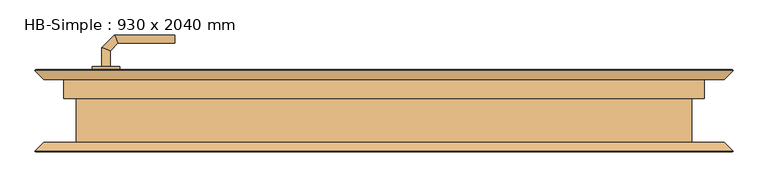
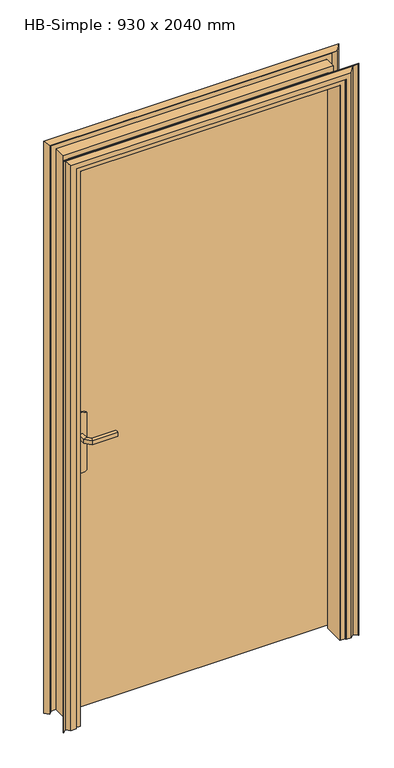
"""IFC4 building model written with IfcOpenShell, lengths in millimetres: door geometry, HB-Simple : 930 x 2040 mm."""

from ifc_helpers import new_model, si_unit, point, frame, frame_2d, origin, place, context, project, spatial, polyline, circle_curve, ellipse_curve, trimmed, segment, composite_curve, outline, extrude, faceted_brep, source, transform, mapped, element, save
from ifc_brep_helpers import plane_surface, cylinder_surface, advanced_brep


def hb_simple_930_x_2040_mm_a3d6ebae(model_context):
    return source(origin(), model_context, "Body", "SolidModel", [
        advanced_brep(
        [(-399.0, 15.0, 993.0), (-411.0, 15.0, 993.0), (-411.0, 15.0, 1007.0), (-399.0, 15.0, 1007.0), (-399.0, -7.4852045, 1007.0), (-399.0, -7.4852045, 993.0), (-411.0, -12.4557673, 1007.0), (-411.0, -12.4557673, 993.0), (-387.5147186, -18.9704859, 1007.0), (-387.5147186, -18.9704859, 993.0), (-392.4852814, -30.9704859, 1007.0), (-392.4852814, -30.9704859, 993.0), (-304.9542163, -18.9704859, 993.0), (-304.9542163, -18.9704859, 1007.0), (-304.9542163, -30.9704859, 1007.0), (-304.9542163, -30.9704859, 993.0)],
        [
            (0, 1, circle_curve(frame((-405.0, 15.0, 1013.0457722), z_axis=(0.0, 1.0, 0.0), x_axis=(-1.0, 0.0, 0.0)), 20.9244589)),
            (1, 2),
            (2, 3, circle_curve(frame((-405.0, 15.0, 986.9542278), z_axis=(0.0, 1.0, 0.0), x_axis=(-1.0, 0.0, 0.0)), 20.9244589)),
            (3, 0),
            (3, 4),
            (4, 5),
            (5, 0),
            (2, 6),
            (6, 4, ellipse_curve(frame((-405.0, -9.9704859, 986.9542278), z_axis=(-0.38268343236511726, 0.9238795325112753, 0.0), x_axis=(0.9238795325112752, 0.38268343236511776, 0.0)), 22.6484711, 20.9244589)),
            (1, 7),
            (7, 6),
            (5, 7, ellipse_curve(frame((-405.0, -9.9704859, 1013.0457722), z_axis=(-0.38268343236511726, 0.9238795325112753, 0.0), x_axis=(0.9238795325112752, 0.38268343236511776, 0.0)), 22.6484711, 20.9244589)),
            (4, 8),
            (8, 9),
            (9, 5),
            (6, 10),
            (10, 8, ellipse_curve(frame((-390.0, -24.9704859, 986.9542278), z_axis=(-0.9238795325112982, 0.38268343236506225, 0.0), x_axis=(0.3826834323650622, 0.9238795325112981, 0.0)), 22.6484711, 20.9244589)),
            (7, 11),
            (11, 10),
            (9, 11, ellipse_curve(frame((-390.0, -24.9704859, 1013.0457722), z_axis=(-0.9238795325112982, 0.38268343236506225, 0.0), x_axis=(0.3826834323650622, 0.9238795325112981, 0.0)), 22.6484711, 20.9244589)),
            (12, 13),
            (13, 14, circle_curve(frame((-304.9542163, -24.9704859, 986.9542278), z_axis=(1.0, 0.0, 0.0), x_axis=(0.0, -1.0, 0.0)), 20.9244589)),
            (14, 15),
            (15, 12, circle_curve(frame((-304.9542163, -24.9704859, 1013.0457722), z_axis=(1.0, 0.0, 0.0), x_axis=(0.0, -1.0, 0.0)), 20.9244589)),
            (8, 13),
            (12, 9),
            (10, 14),
            (11, 15),
        ],
        [
            plane_surface(frame((-414.2195445, 15.0, 1000.0), z_axis=(0.0, 1.0, 0.0), x_axis=(0.0, 0.0, 1.0))),
            plane_surface(frame((-399.0, 15.0, 993.0), z_axis=(1.0, 0.0, 0.0), x_axis=(0.0, -1.0, 0.0))),
            cylinder_surface(frame((-405.0, 15.0, 986.9542278), z_axis=(0.0, 1.0, 0.0), x_axis=(-1.0, 0.0, 0.0)), 20.9244589),
            plane_surface(frame((-411.0, 15.0, 1007.0), z_axis=(-1.0, 0.0, 0.0), x_axis=(0.0, -1.0, 0.0))),
            cylinder_surface(frame((-405.0, 15.0, 1013.0457722), z_axis=(0.0, 1.0, 0.0), x_axis=(-1.0, 0.0, 0.0)), 20.9244589),
            plane_surface(frame((-399.0, -7.4852045, 993.0), z_axis=(0.7071067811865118, 0.7071067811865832, 0.0), x_axis=(0.7071067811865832, -0.7071067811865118, 0.0))),
            cylinder_surface(frame((-405.0, -9.9704859, 986.9542278), z_axis=(-0.7071067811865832, 0.7071067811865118, 0.0), x_axis=(-0.7071067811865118, -0.7071067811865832, 0.0)), 20.9244589),
            plane_surface(frame((-411.0, -12.4557673, 1007.0), z_axis=(-0.7071067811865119, -0.7071067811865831, 0.0), x_axis=(0.7071067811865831, -0.7071067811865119, 0.0))),
            cylinder_surface(frame((-405.0, -9.9704859, 1013.0457722), z_axis=(-0.7071067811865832, 0.7071067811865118, 0.0), x_axis=(-0.7071067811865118, -0.7071067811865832, 0.0)), 20.9244589),
            plane_surface(frame((-304.9542163, -24.9704859, 990.7804555), z_axis=(1.0, 0.0, 0.0), x_axis=(0.0, -1.0, 0.0))),
            plane_surface(frame((-387.5147186, -18.9704859, 993.0), z_axis=(0.0, 1.0, 0.0), x_axis=(1.0, 0.0, 0.0))),
            cylinder_surface(frame((-390.0, -24.9704859, 986.9542278), z_axis=(-1.0, 0.0, 0.0), x_axis=(0.0, -1.0, 0.0)), 20.9244589),
            plane_surface(frame((-392.4852814, -30.9704859, 1007.0), z_axis=(0.0, -1.0, 0.0), x_axis=(1.0, 0.0, 0.0))),
            cylinder_surface(frame((-390.0, -24.9704859, 1013.0457722), z_axis=(-1.0, 0.0, 0.0), x_axis=(0.0, -1.0, 0.0)), 20.9244589),
        ],
        [
            (0, [[1, 2, 3, 4]]),
            (1, [[5, 6, 7, -4]]),
            (2, [[8, 9, -5, -3]]),
            (3, [[10, 11, -8, -2]]),
            (4, [[-7, 12, -10, -1]]),
            (5, [[13, 14, 15, -6]]),
            (6, [[16, 17, -13, -9]]),
            (7, [[18, 19, -16, -11]]),
            (8, [[-15, 20, -18, -12]]),
            (9, [[21, 22, 23, 24]]),
            (10, [[25, -21, 26, -14]]),
            (11, [[27, -22, -25, -17]]),
            (12, [[28, -23, -27, -19]]),
            (13, [[-26, -24, -28, -20]]),
        ],
    ),
        advanced_brep(
        [(-411.0, 65.0, 1007.0), (-411.0, 65.0, 993.0), (-399.0, 65.0, 993.0), (-399.0, 65.0, 1007.0), (-399.0, 87.680388, 1007.0), (-411.0, 92.6509507, 1007.0), (-399.0, 87.680388, 993.0), (-411.0, 92.6509507, 993.0), (-387.6522273, 99.0281607, 1007.0), (-392.62279, 111.0281607, 1007.0), (-387.6522273, 99.0281607, 993.0), (-392.62279, 111.0281607, 993.0), (-304.9813594, 111.0281607, 1007.0), (-304.9813594, 99.0281607, 1007.0), (-304.9813594, 99.0281607, 993.0), (-304.9813594, 111.0281607, 993.0)],
        [
            (0, 1),
            (1, 2, circle_curve(frame((-405.0, 65.0, 1013.0457722), z_axis=(0.0, -1.0, 0.0), x_axis=(1.0, 0.0, 0.0)), 20.9244589)),
            (2, 3),
            (3, 0, circle_curve(frame((-405.0, 65.0, 986.9542278), z_axis=(0.0, -1.0, 0.0), x_axis=(1.0, 0.0, 0.0)), 20.9244589)),
            (3, 4),
            (4, 5, ellipse_curve(frame((-405.0, 90.1656693, 986.9542278), z_axis=(-0.3826834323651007, -0.9238795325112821, 0.0), x_axis=(0.9238795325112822, -0.3826834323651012, 0.0)), 22.6484711, 20.9244589)),
            (5, 0),
            (2, 6),
            (6, 4),
            (1, 7),
            (7, 6, ellipse_curve(frame((-405.0, 90.1656693, 1013.0457722), z_axis=(-0.3826834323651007, -0.9238795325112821, 0.0), x_axis=(0.9238795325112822, -0.3826834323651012, 0.0)), 22.6484711, 20.9244589)),
            (5, 7),
            (4, 8),
            (8, 9, ellipse_curve(frame((-390.1375086, 105.0281607, 986.9542278), z_axis=(-0.9238795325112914, -0.3826834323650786, 0.0), x_axis=(0.38268343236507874, -0.9238795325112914, 0.0)), 22.6484711, 20.9244589)),
            (9, 5),
            (6, 10),
            (10, 8),
            (7, 11),
            (11, 10, ellipse_curve(frame((-390.1375086, 105.0281607, 1013.0457722), z_axis=(-0.9238795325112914, -0.3826834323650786, 0.0), x_axis=(0.38268343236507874, -0.9238795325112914, 0.0)), 22.6484711, 20.9244589)),
            (9, 11),
            (12, 13, circle_curve(frame((-304.9813594, 105.0281607, 986.9542278), z_axis=(1.0, 0.0, 0.0), x_axis=(0.0, -1.0, 0.0)), 20.9244589)),
            (13, 14),
            (14, 15, circle_curve(frame((-304.9813594, 105.0281607, 1013.0457722), z_axis=(1.0, 0.0, 0.0), x_axis=(0.0, -1.0, 0.0)), 20.9244589)),
            (15, 12),
            (8, 13),
            (12, 9),
            (10, 14),
            (11, 15),
        ],
        [
            plane_surface(frame((-414.2195445, 65.0, 1000.0), z_axis=(0.0, -1.0, 0.0), x_axis=(0.0, 0.0, -1.0))),
            cylinder_surface(frame((-405.0, 65.0, 986.9542278), z_axis=(0.0, -1.0, 0.0), x_axis=(1.0, 0.0, 0.0)), 20.9244589),
            plane_surface(frame((-399.0, 65.0, 1007.0), z_axis=(1.0, 0.0, 0.0), x_axis=(0.0, 1.0, 0.0))),
            cylinder_surface(frame((-405.0, 65.0, 1013.0457722), z_axis=(0.0, -1.0, 0.0), x_axis=(1.0, 0.0, 0.0)), 20.9244589),
            plane_surface(frame((-411.0, 65.0, 993.0), z_axis=(-1.0, 0.0, 0.0), x_axis=(0.0, 1.0, 0.0))),
            cylinder_surface(frame((-405.0, 90.1656693, 986.9542278), z_axis=(-0.7071067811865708, -0.7071067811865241, 0.0), x_axis=(0.7071067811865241, -0.7071067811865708, 0.0)), 20.9244589),
            plane_surface(frame((-399.0, 87.680388, 1007.0), z_axis=(0.7071067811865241, -0.7071067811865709, 0.0), x_axis=(0.7071067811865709, 0.7071067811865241, 0.0))),
            cylinder_surface(frame((-405.0, 90.1656693, 1013.0457722), z_axis=(-0.7071067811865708, -0.7071067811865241, 0.0), x_axis=(0.7071067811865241, -0.7071067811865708, 0.0)), 20.9244589),
            plane_surface(frame((-411.0, 92.6509507, 993.0), z_axis=(-0.7071067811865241, 0.7071067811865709, 0.0), x_axis=(0.7071067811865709, 0.7071067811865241, 0.0))),
            plane_surface(frame((-304.9813594, 105.0281607, 990.7804555), z_axis=(1.0, 0.0, 0.0), x_axis=(0.0, -1.0, 0.0))),
            cylinder_surface(frame((-390.1375086, 105.0281607, 986.9542278), z_axis=(-1.0, 0.0, 0.0), x_axis=(0.0, -1.0, 0.0)), 20.9244589),
            plane_surface(frame((-387.6522273, 99.0281607, 1007.0), z_axis=(0.0, -1.0, 0.0), x_axis=(1.0, 0.0, 0.0))),
            cylinder_surface(frame((-390.1375086, 105.0281607, 1013.0457722), z_axis=(-1.0, 0.0, 0.0), x_axis=(0.0, -1.0, 0.0)), 20.9244589),
            plane_surface(frame((-392.62279, 111.0281607, 993.0), z_axis=(0.0, 1.0, 0.0), x_axis=(1.0, 0.0, 0.0))),
        ],
        [
            (0, [[1, 2, 3, 4]]),
            (1, [[5, 6, 7, -4]]),
            (2, [[8, 9, -5, -3]]),
            (3, [[10, 11, -8, -2]]),
            (4, [[-7, 12, -10, -1]]),
            (5, [[13, 14, 15, -6]]),
            (6, [[16, 17, -13, -9]]),
            (7, [[18, 19, -16, -11]]),
            (8, [[-15, 20, -18, -12]]),
            (9, [[21, 22, 23, 24]]),
            (10, [[25, -21, 26, -14]]),
            (11, [[27, -22, -25, -17]]),
            (12, [[28, -23, -27, -19]]),
            (13, [[-26, -24, -28, -20]]),
        ],
    ),
        extrude(outline(composite_curve([segment(trimmed(circle_curve(frame_2d((1045.3589838, -405.0)), 40.0), [point((1080.0, -385.0))], [point((1080.0, -425.0))], False, "CARTESIAN"), True, "CONTINUOUS"), segment(polyline([(1080.0, -425.0), (870.0, -425.0)]), True, "CONTINUOUS"), segment(trimmed(circle_curve(frame_2d((904.6410162, -405.0)), 40.0), [point((870.0, -425.0))], [point((870.0, -385.0))], False, "CARTESIAN"), True, "CONTINUOUS"), segment(polyline([(870.0, -385.0), (1080.0, -385.0)]), True, "CONTINUOUS")], self_intersect=False)), frame((0.0, 15.0, 0.0), z_axis=(0.0, 1.0, 0.0), x_axis=(0.0, 0.0, 1.0)), (0.0, 0.0, 1.0), 5.0),
        extrude(outline(composite_curve([segment(trimmed(circle_curve(frame_2d((904.6410162, -405.0)), 40.0), [point((870.0, -425.0))], [point((870.0, -385.0))], False, "CARTESIAN"), True, "CONTINUOUS"), segment(polyline([(870.0, -385.0), (1080.0, -385.0)]), True, "CONTINUOUS"), segment(trimmed(circle_curve(frame_2d((1045.3589838, -405.0)), 40.0), [point((1080.0, -385.0))], [point((1080.0, -425.0))], False, "CARTESIAN"), True, "CONTINUOUS"), segment(polyline([(1080.0, -425.0), (870.0, -425.0)]), True, "CONTINUOUS")], self_intersect=False)), frame((0.0, 60.0, 0.0), z_axis=(0.0, 1.0, 0.0), x_axis=(0.0, 0.0, 1.0)), (0.0, 0.0, 1.0), 5.0),
        extrude(outline(polyline([(-465.0, 20.0), (-465.0, 60.0), (465.0, 60.0), (465.0, 20.0), (-465.0, 20.0)])), frame((0.0, 0.0, 10.0), z_axis=(0.0, 0.0, 1.0), x_axis=(1.0, 0.0, 0.0)), (0.0, 0.0, 1.0), 2030.0),
        faceted_brep([(483.5, 60.0, 0.0), (495.5, 48.0, 0.0), (507.5, 60.0, 0.0), (508.5, 59.0, 0.0), (495.5, 46.0, 0.0), (483.5, 58.0, 0.0), (466.5, 58.0, 0.0), (466.5, 18.0, 0.0), (448.5, 18.0, 0.0), (448.5, -52.0, 0.0), (466.5, -52.0, 0.0), (466.5, -58.0, 0.0), (483.5, -58.0, 0.0), (495.5, -46.0, 0.0), (508.5, -59.0, 0.0), (507.5, -60.0, 0.0), (495.5, -48.0, 0.0), (483.5, -60.0, 0.0), (465.5794979, -60.0, 0.0), (465.0, -58.9205021, 0.0), (465.0, -54.0, 0.0), (447.4545286, -54.0, 0.0), (446.5, -53.0454714, 0.0), (446.5, 18.9813626, 0.0), (447.5186374, 20.0, 0.0), (465.0, 20.0, 0.0), (465.0, 58.9798135, 0.0), (465.5201865, 60.0, 0.0), (465.5201865, 60.0, 2040.5201865), (-465.5201865, 60.0, 2040.5201865), (-465.5201865, 60.0, 0.0), (-483.5, 60.0, 0.0), (-483.5, 60.0, 2058.5), (483.5, 60.0, 2058.5), (465.0, 58.9798135, 2040.0), (465.0, 20.0, 2040.0), (447.5186374, 20.0, 2022.5186374), (-447.5186374, 20.0, 2022.5186374), (-447.5186374, 20.0, 0.0), (-465.0, 20.0, 0.0), (-465.0, 20.0, 2040.0), (446.5, 18.9813626, 2021.5), (446.5, -53.0454714, 2021.5), (447.4545286, -54.0, 2022.4545286), (465.0, -54.0, 2040.0), (-465.0, -54.0, 2040.0), (-465.0, -54.0, 0.0), (-447.4545286, -54.0, 0.0), (-447.4545286, -54.0, 2022.4545286), (465.0, -58.9205021, 2040.0), (465.5794979, -60.0, 2040.5794979), (483.5, -60.0, 2058.5), (-483.5, -60.0, 2058.5), (-483.5, -60.0, 0.0), (-465.5794979, -60.0, 0.0), (-465.5794979, -60.0, 2040.5794979), (495.5, -48.0, 2070.5), (507.5, -60.0, 2082.5), (508.5, -59.0, 2083.5), (495.5, -46.0, 2070.5), (483.5, -58.0, 2058.5), (466.5, -58.0, 2041.5), (-466.5, -58.0, 2041.5), (-466.5, -58.0, 0.0), (-483.5, -58.0, 0.0), (-483.5, -58.0, 2058.5), (466.5, -52.0, 2041.5), (448.5, -52.0, 2023.5), (-448.5, -52.0, 2023.5), (-448.5, -52.0, 0.0), (-466.5, -52.0, 0.0), (-466.5, -52.0, 2041.5), (448.5, 18.0, 2023.5), (466.5, 18.0, 2041.5), (-466.5, 18.0, 2041.5), (-466.5, 18.0, 0.0), (-448.5, 18.0, 0.0), (-448.5, 18.0, 2023.5), (466.5, 58.0, 2041.5), (483.5, 58.0, 2058.5), (-483.5, 58.0, 2058.5), (-483.5, 58.0, 0.0), (-466.5, 58.0, 0.0), (-466.5, 58.0, 2041.5), (495.5, 46.0, 2070.5), (508.5, 59.0, 2083.5), (507.5, 60.0, 2082.5), (495.5, 48.0, 2070.5), (-465.0, 58.9798135, 0.0), (-446.5, 18.9813626, 0.0), (-446.5, -53.0454714, 0.0), (-465.0, -58.9205021, 0.0), (-495.5, -48.0, 0.0), (-507.5, -60.0, 0.0), (-508.5, -59.0, 0.0), (-495.5, -46.0, 0.0), (-495.5, 46.0, 0.0), (-508.5, 59.0, 0.0), (-507.5, 60.0, 0.0), (-495.5, 48.0, 0.0), (-495.5, 48.0, 2070.5), (-507.5, 60.0, 2082.5), (-508.5, 59.0, 2083.5), (-495.5, 46.0, 2070.5), (-495.5, -46.0, 2070.5), (-508.5, -59.0, 2083.5), (-507.5, -60.0, 2082.5), (-495.5, -48.0, 2070.5), (-465.0, -58.9205021, 2040.0), (-446.5, -53.0454714, 2021.5), (-446.5, 18.9813626, 2021.5), (-465.0, 58.9798135, 2040.0)], [[[0, 1, 2, 3, 4, 5, 6, 7, 8, 9, 10, 11, 12, 13, 14, 15, 16, 17, 18, 19, 20, 21, 22, 23, 24, 25, 26, 27]], [[27, 28, 29, 30, 31, 32, 33, 0]], [[26, 34, 28, 27]], [[25, 35, 34, 26]], [[24, 36, 37, 38, 39, 40, 35, 25]], [[23, 41, 36, 24]], [[22, 42, 41, 23]], [[21, 43, 42, 22]], [[20, 44, 45, 46, 47, 48, 43, 21]], [[19, 49, 44, 20]], [[18, 50, 49, 19]], [[17, 51, 52, 53, 54, 55, 50, 18]], [[16, 56, 51, 17]], [[15, 57, 56, 16]], [[14, 58, 57, 15]], [[13, 59, 58, 14]], [[12, 60, 59, 13]], [[11, 61, 62, 63, 64, 65, 60, 12]], [[10, 66, 61, 11]], [[9, 67, 68, 69, 70, 71, 66, 10]], [[8, 72, 67, 9]], [[7, 73, 74, 75, 76, 77, 72, 8]], [[6, 78, 73, 7]], [[5, 79, 80, 81, 82, 83, 78, 6]], [[4, 84, 79, 5]], [[3, 85, 84, 4]], [[2, 86, 85, 3]], [[1, 87, 86, 2]], [[0, 33, 87, 1]], [[31, 30, 88, 39, 38, 89, 90, 47, 46, 91, 54, 53, 92, 93, 94, 95, 64, 63, 70, 69, 76, 75, 82, 81, 96, 97, 98, 99]], [[32, 31, 99, 100]], [[100, 99, 98, 101]], [[101, 98, 97, 102]], [[102, 97, 96, 103]], [[103, 96, 81, 80]], [[83, 82, 75, 74]], [[77, 76, 69, 68]], [[71, 70, 63, 62]], [[65, 64, 95, 104]], [[104, 95, 94, 105]], [[105, 94, 93, 106]], [[106, 93, 92, 107]], [[107, 92, 53, 52]], [[55, 54, 91, 108]], [[108, 91, 46, 45]], [[48, 47, 90, 109]], [[109, 90, 89, 110]], [[110, 89, 38, 37]], [[40, 39, 88, 111]], [[111, 88, 30, 29]], [[35, 40, 111, 34]], [[42, 109, 110, 41]], [[49, 108, 45, 44]], [[66, 71, 62, 61]], [[72, 77, 68, 67]], [[78, 83, 74, 73]], [[34, 111, 29, 28]], [[41, 110, 37, 36]], [[43, 48, 109, 42]], [[50, 55, 108, 49]], [[56, 107, 52, 51]], [[57, 106, 107, 56]], [[58, 105, 106, 57]], [[59, 104, 105, 58]], [[60, 65, 104, 59]], [[84, 103, 80, 79]], [[85, 102, 103, 84]], [[86, 101, 102, 85]], [[87, 100, 101, 86]], [[33, 32, 100, 87]]]),
    ])


if __name__ == "__main__":
    model = new_model("IFC4")
    model_context = context("Model", 3, world=origin())
    ifc_project = project(units=[si_unit("LENGTHUNIT", "METRE", prefix="MILLI")], contexts=[model_context])
    site = spatial("IfcSite", under=ifc_project)
    building = spatial("IfcBuilding", under=site)
    placement = place(None, origin())
    hb_simple_930_x_2040_mm_shape = hb_simple_930_x_2040_mm_a3d6ebae(model_context)
    element("IfcDoor", 1, ObjectType="HB-Simple : 930 x 2040 mm", at=placement, inside=building, context=model_context, shape_type="MappedRepresentation", body=[
        mapped(hb_simple_930_x_2040_mm_shape, transform((0.0, 0.0, 0.0), x_axis=(1.0, 0.0, 0.0), y_axis=(0.0, 1.0, 0.0), z_axis=(0.0, 0.0, 1.0))),
    ])
    save(model, "model.ifc")
